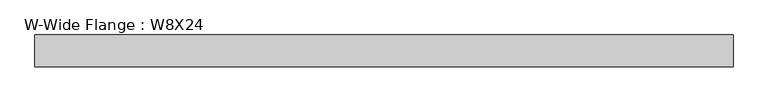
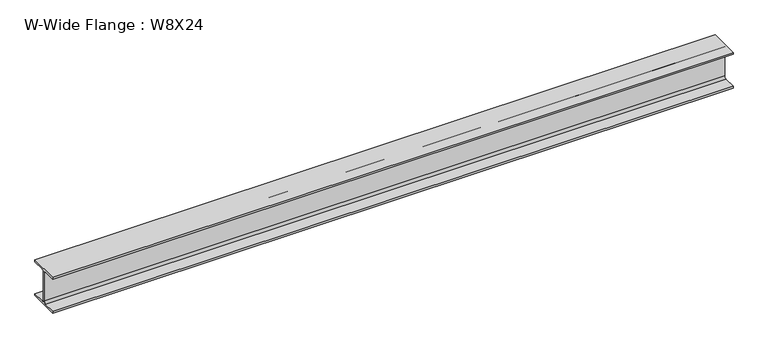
"""IFC4 building model written with IfcOpenShell, lengths in millimetres: beam geometry, W-Wide Flange : W8X24."""

import ifcopenshell
import ifcopenshell.guid

model = None  # the IFC model being written
_history = None  # IfcOwnerHistory: only IFC2X3 demands one
_inside = {}  # id of a spatial element -> (the spatial element, [elements in it])
_under = {}  # id of a project, library or spatial element -> (it, [spatial elements below it])
_declared = {}  # id of a project -> (the project, [libraries it declares])
_typed = {}  # id of a type object -> (the type object, [elements of that type])
_made_of = {}  # id of a material, layer set ... -> (it, [elements and type objects made of it])


def new_model(schema):
    """Start an empty IFC model of exactly this schema.

    Asked for "IFC4X3", IfcOpenShell would pick the latest addendum, in which some entities
    have other attributes; the version numbers below select the first issue.
    IFC2X3 requires an IfcOwnerHistory on every rooted entity: one is made here for all.
    """
    global model, _history
    if schema == "IFC4X3":
        model = ifcopenshell.file(schema_version=(4, 3, 0, 0))
    else:
        model = ifcopenshell.file(schema=schema)
    _inside.clear()
    _under.clear()
    _declared.clear()
    _typed.clear()
    _made_of.clear()
    _history = None
    if model.schema == "IFC2X3":
        org = make("IfcOrganization", Name="unknown")
        user = make(
            "IfcPersonAndOrganization",
            ThePerson=make("IfcPerson", FamilyName="unknown"),
            TheOrganization=org,
        )
        app = make(
            "IfcApplication",
            ApplicationDeveloper=org,
            Version="unknown",
            ApplicationFullName="unknown",
            ApplicationIdentifier="unknown",
        )
        _history = make(
            "IfcOwnerHistory",
            OwningUser=user,
            OwningApplication=app,
            ChangeAction="ADDED",
            CreationDate=0,
        )
    return model


def make(cls, **values):
    """One entity of the class cls with the attributes given. An attribute that is None is left unset."""
    return model.create_entity(
        cls, **{name: value for name, value in values.items() if value is not None}
    )


def rooted(cls, **values):
    """An entity with a GlobalId (a new one), such as an element, a storey or a relation."""
    return make(cls, GlobalId=ifcopenshell.guid.new(), OwnerHistory=_history, **values)


def si_unit(unit_type, name, prefix=None):
    """IfcSIUnit, for example si_unit("LENGTHUNIT", "METRE", prefix="MILLI")."""
    return make("IfcSIUnit", UnitType=unit_type, Prefix=prefix, Name=name)


def assignment(units):
    """IfcUnitAssignment: the units of a project."""
    return None if units is None else make("IfcUnitAssignment", Units=units)


def point(xyz):
    """IfcCartesianPoint."""
    return None if xyz is None else make("IfcCartesianPoint", Coordinates=xyz)


def direction(xyz):
    """IfcDirection."""
    return None if xyz is None else make("IfcDirection", DirectionRatios=xyz)


def frame(location, z_axis=None, x_axis=None):
    """IfcAxis2Placement3D, a coordinate frame: its origin and axes. An axis left out is left unset."""
    return make(
        "IfcAxis2Placement3D",
        Location=point(location),
        Axis=direction(z_axis),
        RefDirection=direction(x_axis),
    )


def frame_2d(location, x_axis=None):
    """IfcAxis2Placement2D, a coordinate frame in the plane: its origin and x axis."""
    return make(
        "IfcAxis2Placement2D", Location=point(location), RefDirection=direction(x_axis)
    )


def origin():
    """The frame at (0, 0, 0) with its axes left unset."""
    return frame((0.0, 0.0, 0.0))


def place(relative_to, where):
    """IfcLocalPlacement: puts the frame where relative to a parent placement (None: the world)."""
    return make(
        "IfcLocalPlacement", PlacementRelTo=relative_to, RelativePlacement=where
    )


def context(
    kind, dimensions, precision=None, world=None, true_north=None, identifier=None
):
    """IfcGeometricRepresentationContext, for example the 3D "Model" context."""
    return make(
        "IfcGeometricRepresentationContext",
        ContextIdentifier=identifier,
        ContextType=kind,
        CoordinateSpaceDimension=dimensions,
        Precision=precision,
        WorldCoordinateSystem=world,
        TrueNorth=true_north,
    )


def project(units=None, contexts=None):
    """IfcProject with its units and contexts."""
    return rooted(
        "IfcProject",
        Name="project",
        RepresentationContexts=contexts,
        UnitsInContext=assignment(units),
    )


def spatial(cls, under=None, at=None, **own):
    """A site, building, storey or space (cls), placed at a placement, below another one or the project."""
    s = rooted(cls, ObjectPlacement=at, **own)
    if under is not None:
        _under.setdefault(under.id(), (under, []))[1].append(s)
    return s


def polyline(points):
    """IfcPolyline through the points."""
    return make("IfcPolyline", Points=[point(p) for p in points])


def circle_curve(where, radius):
    """IfcCircle in the frame where."""
    return make("IfcCircle", Position=where, Radius=radius)


def trimmed(basis, trim1, trim2, sense, master):
    """IfcTrimmedCurve: the piece of a basis curve between two trims."""
    return make(
        "IfcTrimmedCurve",
        BasisCurve=basis,
        Trim1=trim1,
        Trim2=trim2,
        SenseAgreement=sense,
        MasterRepresentation=master,
    )


def segment(curve, same_sense, transition):
    """IfcCompositeCurveSegment."""
    return make(
        "IfcCompositeCurveSegment",
        Transition=transition,
        SameSense=same_sense,
        ParentCurve=curve,
    )


def composite_curve(segments, self_intersect=None):
    """IfcCompositeCurve: segments joined end to end."""
    return make("IfcCompositeCurve", Segments=segments, SelfIntersect=self_intersect)


def outline(outer, holes=None, kind="AREA"):
    """IfcArbitraryClosedProfileDef: a profile drawn as a closed curve; with holes, ...WithVoids."""
    if holes is None:
        return make("IfcArbitraryClosedProfileDef", ProfileType=kind, OuterCurve=outer)
    return make(
        "IfcArbitraryProfileDefWithVoids",
        ProfileType=kind,
        OuterCurve=outer,
        InnerCurves=holes,
    )


def extrude(swept, where, along, depth):
    """IfcExtrudedAreaSolid: the profile swept, set in the frame where, extruded along a direction by depth."""
    return make(
        "IfcExtrudedAreaSolid",
        SweptArea=swept,
        Position=where,
        ExtrudedDirection=direction(along),
        Depth=depth,
    )


def shape(context_of_items, identifier, shape_type, items):
    """IfcShapeRepresentation: the items that make up one representation, for example the "Body"."""
    return make(
        "IfcShapeRepresentation",
        ContextOfItems=context_of_items,
        RepresentationIdentifier=identifier,
        RepresentationType=shape_type,
        Items=items,
    )


def source(mapping_origin, context_of_items, identifier, shape_type, items):
    """IfcRepresentationMap: a shape defined once, which mapped items show again and again."""
    return make(
        "IfcRepresentationMap",
        MappingOrigin=mapping_origin,
        MappedRepresentation=shape(context_of_items, identifier, shape_type, items),
    )


def transform(
    local_origin,
    x_axis=None,
    y_axis=None,
    z_axis=None,
    scale=None,
    scale2=None,
    scale3=None,
    uniform=True,
):
    """IfcCartesianTransformationOperator3D, or its non-uniform kind. x_axis, y_axis, z_axis: its Axis1, 2, 3."""
    if uniform:
        return make(
            "IfcCartesianTransformationOperator3D",
            Axis1=direction(x_axis),
            Axis2=direction(y_axis),
            LocalOrigin=point(local_origin),
            Scale=scale,
            Axis3=direction(z_axis),
        )
    return make(
        "IfcCartesianTransformationOperator3DnonUniform",
        Axis1=direction(x_axis),
        Axis2=direction(y_axis),
        LocalOrigin=point(local_origin),
        Scale=scale,
        Axis3=direction(z_axis),
        Scale2=scale2,
        Scale3=scale3,
    )


def mapped(mapping_source, mapping_target):
    """IfcMappedItem: shows the shape of a source again, moved by a transform."""
    return make(
        "IfcMappedItem", MappingSource=mapping_source, MappingTarget=mapping_target
    )


def made_of(thing, what):
    """Note that an element or type object is made of a material, layer set ...; save() writes the relation."""
    if what is not None:
        _made_of.setdefault(what.id(), (what, []))[1].append(thing)
    return thing


def element(
    cls,
    number,
    at=None,
    inside=None,
    cuts=None,
    type_object=None,
    material=None,
    context=None,
    identifier="Body",
    shape_type=None,
    held_by="IfcProductDefinitionShape",
    body=None,
    shapes=None,
    **own,
):
    """One element of the class cls, such as IfcWall. Its Tag is "e" and its number.

    at: its placement. inside: the storey or other place that contains it. cuts: it is an
    opening in that element (IfcRelVoidsElement). A single representation is given by context,
    identifier, shape_type and body (its items); several are given by shapes. held_by: the class
    of the entity that holds the representations. save() writes the other relations.
    """
    e = rooted(cls, Tag="e%d" % number, ObjectPlacement=at, **own)
    if body is not None:
        shapes = [shape(context, identifier, shape_type, body)]
    if shapes is not None:
        e.Representation = make(held_by, Representations=shapes)
    if inside is not None:
        _inside.setdefault(inside.id(), (inside, []))[1].append(e)
    if cuts is not None:
        rooted(
            "IfcRelVoidsElement", RelatingBuildingElement=cuts, RelatedOpeningElement=e
        )
    if type_object is not None:
        _typed.setdefault(type_object.id(), (type_object, []))[1].append(e)
    return made_of(e, material)


def aggregate(whole, parts):
    """IfcRelAggregates: a whole, such as a stair, and the parts it consists of."""
    return rooted("IfcRelAggregates", RelatingObject=whole, RelatedObjects=parts)


def save(model, path):
    """Write the relations noted so far, then the file.

    IfcRelAggregates (storeys below a building ...), IfcRelContainedInSpatialStructure (elements
    in a storey), IfcRelDefinesByType, IfcRelAssociatesMaterial and IfcRelDeclares: one each for
    every whole, place, type object, material and project.
    """
    for whole, parts in _under.values():
        aggregate(whole, parts)
    for where, things in _inside.values():
        rooted(
            "IfcRelContainedInSpatialStructure",
            RelatedElements=things,
            RelatingStructure=where,
        )
    for kind, things in _typed.values():
        rooted("IfcRelDefinesByType", RelatedObjects=things, RelatingType=kind)
    for what, things in _made_of.values():
        rooted("IfcRelAssociatesMaterial", RelatedObjects=things, RelatingMaterial=what)
    for by, libraries in _declared.values():
        rooted("IfcRelDeclares", RelatingContext=by, RelatedDefinitions=libraries)
    model.write(path)


def w_wide_flange_w8x24_1566cf3c(model_context):
    return source(origin(), model_context, "Body", "SweptSolid", [
        extrude(outline(composite_curve([segment(polyline([(82.55, -90.551), (82.55, -100.711), (-82.55, -100.711), (-82.55, -90.551), (-15.1765, -90.551)]), True, "CONTINUOUS"), segment(trimmed(circle_curve(frame_2d((-15.1765, -78.486)), 12.065), [point((-15.1765, -90.551))], [point((-3.1115, -78.486))], True, "CARTESIAN"), True, "CONTINUOUS"), segment(polyline([(-3.1115, -78.486), (-3.1115, 78.486)]), True, "CONTINUOUS"), segment(trimmed(circle_curve(frame_2d((-15.1765, 78.486)), 12.065), [point((-3.1115, 78.486))], [point((-15.1765, 90.551))], True, "CARTESIAN"), True, "CONTINUOUS"), segment(polyline([(-15.1765, 90.551), (-82.55, 90.551), (-82.55, 100.711), (82.55, 100.711), (82.55, 90.551), (15.1765, 90.551)]), True, "CONTINUOUS"), segment(trimmed(circle_curve(frame_2d((15.1765, 78.486)), 12.065), [point((15.1765, 90.551))], [point((3.1115, 78.486))], True, "CARTESIAN"), True, "CONTINUOUS"), segment(polyline([(3.1115, 78.486), (3.1115, -78.486)]), True, "CONTINUOUS"), segment(trimmed(circle_curve(frame_2d((15.1765, -78.486)), 12.065), [point((3.1115, -78.486))], [point((15.1765, -90.551))], True, "CARTESIAN"), True, "CONTINUOUS"), segment(polyline([(15.1765, -90.551), (82.55, -90.551)]), True, "CONTINUOUS")], self_intersect=False)), frame((-1825.625, 0.0, 0.0), z_axis=(1.0, 0.0, 0.0), x_axis=(0.0, 1.0, 0.0)), (0.0, 0.0, 1.0), 3638.5499994),
    ])


if __name__ == "__main__":
    model = new_model("IFC4")
    model_context = context("Model", 3, world=origin())
    ifc_project = project(units=[si_unit("LENGTHUNIT", "METRE", prefix="MILLI")], contexts=[model_context])
    site = spatial("IfcSite", under=ifc_project)
    building = spatial("IfcBuilding", under=site)
    placement = place(None, origin())
    w_wide_flange_w8x24_shape = w_wide_flange_w8x24_1566cf3c(model_context)
    element("IfcBeam", 1, ObjectType="W-Wide Flange : W8X24", at=placement, inside=building, context=model_context, shape_type="MappedRepresentation", body=[
        mapped(w_wide_flange_w8x24_shape, transform((0.0, 0.0, 0.0), x_axis=(1.0, 0.0, 0.0), y_axis=(0.0, 1.0, 0.0), z_axis=(0.0, 0.0, 1.0))),
    ])
    save(model, "model.ifc")
